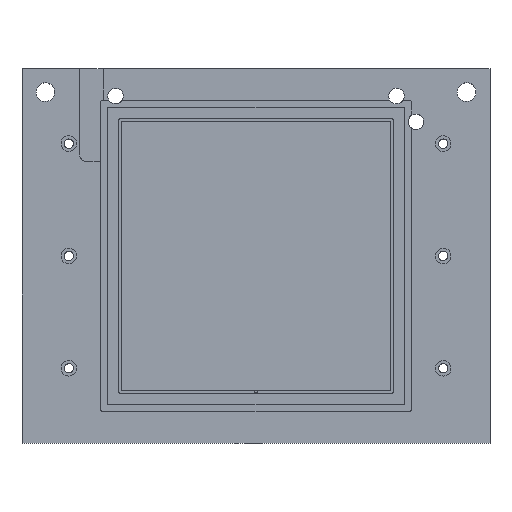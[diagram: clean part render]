
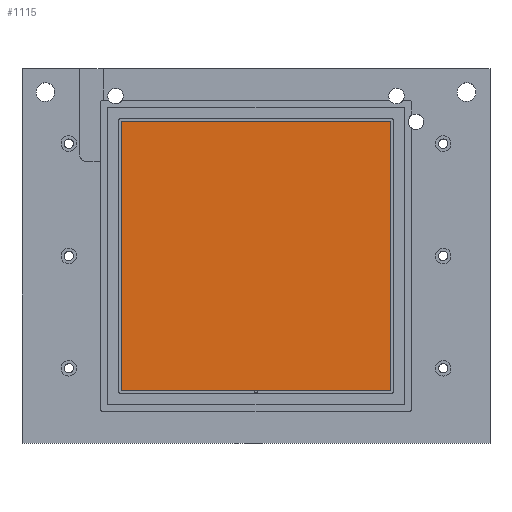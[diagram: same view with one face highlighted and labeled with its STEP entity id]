
A CAD part, top view. The second image highlights one B-rep face of the part: STEP entity #1115.
In plain terms, the highlighted planar face has unit normal (0, 0, 1).
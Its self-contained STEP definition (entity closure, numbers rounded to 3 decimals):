
#827=CARTESIAN_POINT('Axis2P3D Location',(0.,0.,-0.75)) ;
#1002=CARTESIAN_POINT('Vertex',(43.,-43.,-0.75)) ;
#1005=CARTESIAN_POINT('Line Origine',(0.,-43.,-0.75)) ;
#1009=CARTESIAN_POINT('Vertex',(-43.,-43.,-0.75)) ;
#1037=CARTESIAN_POINT('Line Origine',(-43.,0.,-0.75)) ;
#1041=CARTESIAN_POINT('Vertex',(-43.,43.,-0.75)) ;
#1068=CARTESIAN_POINT('Line Origine',(0.,43.,-0.75)) ;
#1072=CARTESIAN_POINT('Vertex',(43.,43.,-0.75)) ;
#1097=CARTESIAN_POINT('Line Origine',(43.,0.,-0.75)) ;
#828=DIRECTION('Axis2P3D Direction',(0.,0.,-1.)) ;
#829=DIRECTION('Axis2P3D XDirection',(1.,0.,0.)) ;
#1006=DIRECTION('Vector Direction',(1.,0.,0.)) ;
#1038=DIRECTION('Vector Direction',(0.,-1.,0.)) ;
#1069=DIRECTION('Vector Direction',(-1.,0.,0.)) ;
#1098=DIRECTION('Vector Direction',(0.,1.,0.)) ;
#830=AXIS2_PLACEMENT_3D('Plane Axis2P3D',#827,#828,#829) ;
#1110=ORIENTED_EDGE('',*,*,#1101,.F.) ;
#1111=ORIENTED_EDGE('',*,*,#1074,.F.) ;
#1112=ORIENTED_EDGE('',*,*,#1043,.F.) ;
#1113=ORIENTED_EDGE('',*,*,#1011,.F.) ;
#1007=VECTOR('Line Direction',#1006,1.) ;
#1039=VECTOR('Line Direction',#1038,1.) ;
#1070=VECTOR('Line Direction',#1069,1.) ;
#1099=VECTOR('Line Direction',#1098,1.) ;
#1115=ADVANCED_FACE('Corps principal',(#1114),#831,.F.) ;
#1011=EDGE_CURVE('',#1003,#1010,#1008,.F.) ;
#1043=EDGE_CURVE('',#1010,#1042,#1040,.F.) ;
#1074=EDGE_CURVE('',#1042,#1073,#1071,.F.) ;
#1101=EDGE_CURVE('',#1073,#1003,#1100,.F.) ;
#1109=EDGE_LOOP('',(#1110,#1111,#1112,#1113)) ;
#1114=FACE_OUTER_BOUND('',#1109,.T.) ;
#1008=LINE('Line',#1005,#1007) ;
#1040=LINE('Line',#1037,#1039) ;
#1071=LINE('Line',#1068,#1070) ;
#1100=LINE('Line',#1097,#1099) ;
#831=PLANE('Plane',#830) ;
#1003=VERTEX_POINT('',#1002) ;
#1010=VERTEX_POINT('',#1009) ;
#1042=VERTEX_POINT('',#1041) ;
#1073=VERTEX_POINT('',#1072) ;
